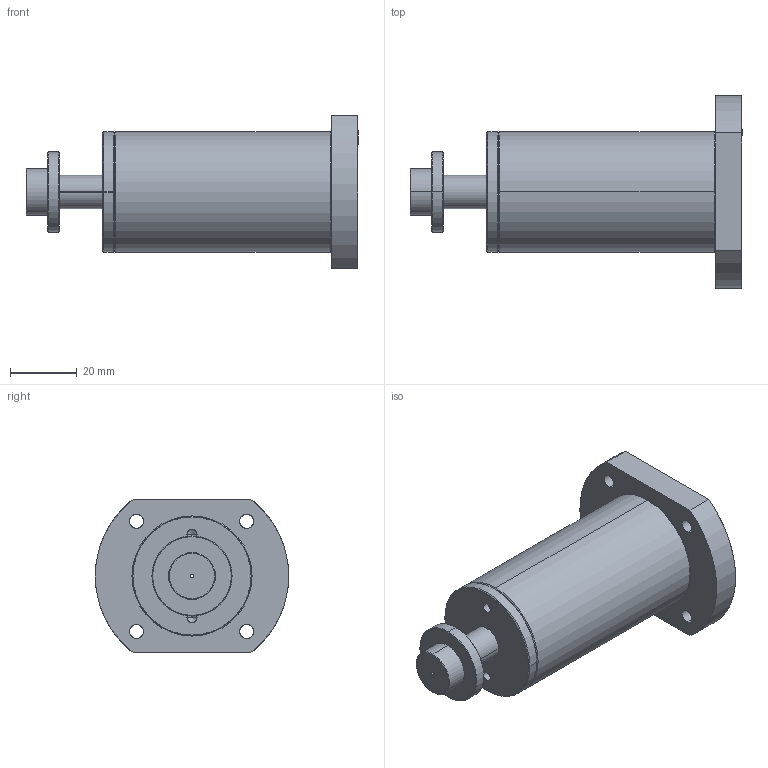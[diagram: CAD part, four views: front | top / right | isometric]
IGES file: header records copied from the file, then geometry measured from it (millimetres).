
Start section: SolidWorks IGES file using analytic representation for surfaces
Global section: file name: D:\IGS跡宒\AC3613.IGS,1; native system: 5HSolidWorks 2013; preprocessor: SolidWorks 2013; author: Administrator; date: 160919.081415; units: inch
Bounding box: 99.5 x 58 x 46 mm (x, y, z)
Surface area: 17822.9 mm2 (no closed solid volume)
Topology: 0 solids, 0 shells, 66 faces, 1492 edges, 1488 vertices
Faces by surface type: revolution 54, bspline 12
